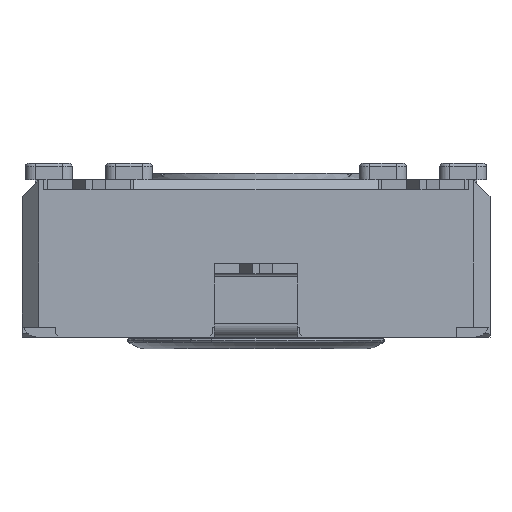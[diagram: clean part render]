
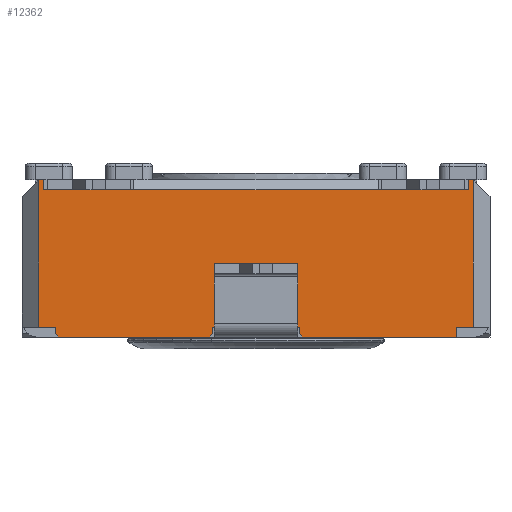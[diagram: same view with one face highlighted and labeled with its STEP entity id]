
A CAD part, front view. The second image highlights one B-rep face of the part: STEP entity #12362.
In plain terms, the highlighted planar face has unit normal (0, -1, 0).
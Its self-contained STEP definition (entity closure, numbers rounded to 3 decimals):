
#642=FACE_OUTER_BOUND('',#1308,.T.);
#1308=EDGE_LOOP('',(#8219,#8220,#8221,#8222,#8223,#8224,#8225,#8226,#8227,
#8228,#8229,#8230,#8231,#8232,#8233,#8234,#8235,#8236,#8237,#8238,#8239,
#8240,#8241,#8242,#8243,#8244,#8245));
#1987=LINE('',#17599,#3453);
#2000=LINE('',#17633,#3466);
#2005=LINE('',#17643,#3471);
#2083=LINE('',#17802,#3549);
#2108=LINE('',#17853,#3574);
#2134=LINE('',#17917,#3600);
#2135=LINE('',#17919,#3601);
#2136=LINE('',#17921,#3602);
#2137=LINE('',#17922,#3603);
#2138=LINE('',#17924,#3604);
#2139=LINE('',#17926,#3605);
#2140=LINE('',#17928,#3606);
#2141=LINE('',#17930,#3607);
#2142=LINE('',#17931,#3608);
#2143=LINE('',#17933,#3609);
#2144=LINE('',#17935,#3610);
#2145=LINE('',#17937,#3611);
#2146=LINE('',#17939,#3612);
#2147=LINE('',#17941,#3613);
#2148=LINE('',#17943,#3614);
#2149=LINE('',#17945,#3615);
#2150=LINE('',#17947,#3616);
#2151=LINE('',#17949,#3617);
#2152=LINE('',#17950,#3618);
#2153=LINE('',#17952,#3619);
#2154=LINE('',#17954,#3620);
#2155=LINE('',#17955,#3621);
#3453=VECTOR('',#14100,10.);
#3466=VECTOR('',#14139,10.);
#3471=VECTOR('',#14144,10.);
#3549=VECTOR('',#14246,10.);
#3574=VECTOR('',#14287,10.);
#3600=VECTOR('',#14335,10.);
#3601=VECTOR('',#14336,10.);
#3602=VECTOR('',#14337,10.);
#3603=VECTOR('',#14338,10.);
#3604=VECTOR('',#14339,10.);
#3605=VECTOR('',#14340,10.);
#3606=VECTOR('',#14341,10.);
#3607=VECTOR('',#14342,10.);
#3608=VECTOR('',#14343,10.);
#3609=VECTOR('',#14344,10.);
#3610=VECTOR('',#14345,10.);
#3611=VECTOR('',#14346,10.);
#3612=VECTOR('',#14347,10.);
#3613=VECTOR('',#14348,10.);
#3614=VECTOR('',#14349,10.);
#3615=VECTOR('',#14350,10.);
#3616=VECTOR('',#14351,10.);
#3617=VECTOR('',#14352,10.);
#3618=VECTOR('',#14353,10.);
#3619=VECTOR('',#14354,10.);
#3620=VECTOR('',#14355,10.);
#3621=VECTOR('',#14356,10.);
#4911=VERTEX_POINT('',#17577);
#4919=VERTEX_POINT('',#17598);
#4927=VERTEX_POINT('',#17632);
#4931=VERTEX_POINT('',#17640);
#4932=VERTEX_POINT('',#17642);
#5000=VERTEX_POINT('',#17799);
#5001=VERTEX_POINT('',#17801);
#5018=VERTEX_POINT('',#17850);
#5019=VERTEX_POINT('',#17852);
#5046=VERTEX_POINT('',#17916);
#5047=VERTEX_POINT('',#17918);
#5048=VERTEX_POINT('',#17920);
#5049=VERTEX_POINT('',#17923);
#5050=VERTEX_POINT('',#17925);
#5051=VERTEX_POINT('',#17927);
#5052=VERTEX_POINT('',#17929);
#5053=VERTEX_POINT('',#17932);
#5054=VERTEX_POINT('',#17934);
#5055=VERTEX_POINT('',#17936);
#5056=VERTEX_POINT('',#17938);
#5057=VERTEX_POINT('',#17940);
#5058=VERTEX_POINT('',#17942);
#5059=VERTEX_POINT('',#17944);
#5060=VERTEX_POINT('',#17946);
#5061=VERTEX_POINT('',#17948);
#5062=VERTEX_POINT('',#17951);
#5063=VERTEX_POINT('',#17953);
#6122=EDGE_CURVE('',#4911,#4919,#1987,.T.);
#6139=EDGE_CURVE('',#4927,#4911,#2000,.T.);
#6144=EDGE_CURVE('',#4932,#4931,#2005,.T.);
#6223=EDGE_CURVE('',#5001,#5000,#2083,.T.);
#6248=EDGE_CURVE('',#5019,#5018,#2108,.T.);
#6280=EDGE_CURVE('',#5000,#5046,#2134,.T.);
#6281=EDGE_CURVE('',#5046,#5047,#2135,.T.);
#6282=EDGE_CURVE('',#5047,#5048,#2136,.T.);
#6283=EDGE_CURVE('',#4932,#5048,#2137,.T.);
#6284=EDGE_CURVE('',#4931,#5049,#2138,.T.);
#6285=EDGE_CURVE('',#5050,#5049,#2139,.T.);
#6286=EDGE_CURVE('',#5050,#5051,#2140,.T.);
#6287=EDGE_CURVE('',#5052,#5051,#2141,.T.);
#6288=EDGE_CURVE('',#4927,#5052,#2142,.T.);
#6289=EDGE_CURVE('',#4919,#5053,#2143,.T.);
#6290=EDGE_CURVE('',#5053,#5054,#2144,.T.);
#6291=EDGE_CURVE('',#5055,#5054,#2145,.T.);
#6292=EDGE_CURVE('',#5055,#5056,#2146,.T.);
#6293=EDGE_CURVE('',#5056,#5057,#2147,.T.);
#6294=EDGE_CURVE('',#5057,#5058,#2148,.T.);
#6295=EDGE_CURVE('',#5059,#5058,#2149,.T.);
#6296=EDGE_CURVE('',#5059,#5060,#2150,.T.);
#6297=EDGE_CURVE('',#5060,#5061,#2151,.T.);
#6298=EDGE_CURVE('',#5061,#5019,#2152,.T.);
#6299=EDGE_CURVE('',#5018,#5062,#2153,.T.);
#6300=EDGE_CURVE('',#5063,#5062,#2154,.T.);
#6301=EDGE_CURVE('',#5063,#5001,#2155,.T.);
#8219=ORIENTED_EDGE('',*,*,#6223,.T.);
#8220=ORIENTED_EDGE('',*,*,#6280,.T.);
#8221=ORIENTED_EDGE('',*,*,#6281,.T.);
#8222=ORIENTED_EDGE('',*,*,#6282,.T.);
#8223=ORIENTED_EDGE('',*,*,#6283,.F.);
#8224=ORIENTED_EDGE('',*,*,#6144,.T.);
#8225=ORIENTED_EDGE('',*,*,#6284,.T.);
#8226=ORIENTED_EDGE('',*,*,#6285,.F.);
#8227=ORIENTED_EDGE('',*,*,#6286,.T.);
#8228=ORIENTED_EDGE('',*,*,#6287,.F.);
#8229=ORIENTED_EDGE('',*,*,#6288,.F.);
#8230=ORIENTED_EDGE('',*,*,#6139,.T.);
#8231=ORIENTED_EDGE('',*,*,#6122,.T.);
#8232=ORIENTED_EDGE('',*,*,#6289,.T.);
#8233=ORIENTED_EDGE('',*,*,#6290,.T.);
#8234=ORIENTED_EDGE('',*,*,#6291,.F.);
#8235=ORIENTED_EDGE('',*,*,#6292,.T.);
#8236=ORIENTED_EDGE('',*,*,#6293,.T.);
#8237=ORIENTED_EDGE('',*,*,#6294,.T.);
#8238=ORIENTED_EDGE('',*,*,#6295,.F.);
#8239=ORIENTED_EDGE('',*,*,#6296,.T.);
#8240=ORIENTED_EDGE('',*,*,#6297,.T.);
#8241=ORIENTED_EDGE('',*,*,#6298,.T.);
#8242=ORIENTED_EDGE('',*,*,#6248,.T.);
#8243=ORIENTED_EDGE('',*,*,#6299,.T.);
#8244=ORIENTED_EDGE('',*,*,#6300,.F.);
#8245=ORIENTED_EDGE('',*,*,#6301,.T.);
#11657=PLANE('',#13067);
#12362=ADVANCED_FACE('',(#642),#11657,.T.);
#13067=AXIS2_PLACEMENT_3D('',#17915,#14333,#14334);
#14100=DIRECTION('',(1.,0.,0.));
#14139=DIRECTION('',(1.,0.,0.));
#14144=DIRECTION('',(1.,0.,0.));
#14246=DIRECTION('',(-1.,0.,0.));
#14287=DIRECTION('',(-1.,0.,0.));
#14333=DIRECTION('center_axis',(0.,-1.,0.));
#14334=DIRECTION('ref_axis',(0.,0.,-1.));
#14335=DIRECTION('',(-1.,0.,0.));
#14336=DIRECTION('',(0.,0.,1.));
#14337=DIRECTION('',(-1.,0.,0.));
#14338=DIRECTION('',(0.,0.,1.));
#14339=DIRECTION('',(0.,0.,-1.));
#14340=DIRECTION('',(-0.707,0.,0.707));
#14341=DIRECTION('',(1.,0.,0.));
#14342=DIRECTION('',(-0.707,0.,-0.707));
#14343=DIRECTION('',(0.,0.,-1.));
#14344=DIRECTION('',(1.,0.,0.));
#14345=DIRECTION('',(0.,0.,-1.));
#14346=DIRECTION('',(-0.707,0.,0.707));
#14347=DIRECTION('',(1.,0.,0.));
#14348=DIRECTION('',(0.,0.,1.));
#14349=DIRECTION('',(1.,0.,0.));
#14350=DIRECTION('',(0.,0.,-1.));
#14351=DIRECTION('',(-1.,0.,0.));
#14352=DIRECTION('',(0.,0.,-1.));
#14353=DIRECTION('',(-1.,0.,0.));
#14354=DIRECTION('',(-1.,0.,0.));
#14355=DIRECTION('',(1.,0.,0.));
#14356=DIRECTION('',(-1.,0.,0.));
#17577=CARTESIAN_POINT('',(-8.717,-9.898,0.));
#17598=CARTESIAN_POINT('',(-6.217,-9.898,0.));
#17599=CARTESIAN_POINT('',(-14.467,-9.898,0.));
#17632=CARTESIAN_POINT('',(-8.767,-9.898,0.));
#17633=CARTESIAN_POINT('',(-14.467,-9.898,0.));
#17640=CARTESIAN_POINT('',(-13.467,-9.898,0.));
#17642=CARTESIAN_POINT('',(-13.967,-9.898,0.));
#17643=CARTESIAN_POINT('',(-7.245,-9.898,0.));
#17799=CARTESIAN_POINT('',(-13.717,-9.898,4.1));
#17801=CARTESIAN_POINT('',(-11.217,-9.898,4.1));
#17802=CARTESIAN_POINT('',(-6.467,-9.898,4.1));
#17850=CARTESIAN_POINT('',(-3.717,-9.898,4.1));
#17852=CARTESIAN_POINT('',(-1.217,-9.898,4.1));
#17853=CARTESIAN_POINT('',(-1.467,-9.898,4.1));
#17915=CARTESIAN_POINT('Origin',(-0.467,-9.898,0.));
#17916=CARTESIAN_POINT('',(-13.817,-9.898,4.1));
#17917=CARTESIAN_POINT('',(-3.944,-9.898,4.1));
#17918=CARTESIAN_POINT('',(-13.817,-9.898,4.4));
#17919=CARTESIAN_POINT('',(-13.817,-9.898,2.2));
#17920=CARTESIAN_POINT('',(-13.967,-9.898,4.4));
#17921=CARTESIAN_POINT('',(-14.467,-9.898,4.4));
#17922=CARTESIAN_POINT('',(-13.967,-9.898,0.));
#17923=CARTESIAN_POINT('',(-13.467,-9.898,-0.2));
#17924=CARTESIAN_POINT('',(-13.467,-9.898,-0.15));
#17925=CARTESIAN_POINT('',(-13.367,-9.898,-0.3));
#17926=CARTESIAN_POINT('',(-10.242,-9.898,-3.425));
#17927=CARTESIAN_POINT('',(-8.867,-9.898,-0.3));
#17928=CARTESIAN_POINT('',(-0.467,-9.898,-0.3));
#17929=CARTESIAN_POINT('',(-8.767,-9.898,-0.2));
#17930=CARTESIAN_POINT('',(-6.667,-9.898,1.9));
#17931=CARTESIAN_POINT('',(-8.767,-9.898,0.));
#17932=CARTESIAN_POINT('',(-6.167,-9.898,0.));
#17933=CARTESIAN_POINT('',(-14.467,-9.898,0.));
#17934=CARTESIAN_POINT('',(-6.167,-9.898,-0.2));
#17935=CARTESIAN_POINT('',(-6.167,-9.898,0.));
#17936=CARTESIAN_POINT('',(-6.067,-9.898,-0.3));
#17937=CARTESIAN_POINT('',(-4.767,-9.898,-1.6));
#17938=CARTESIAN_POINT('',(-1.467,-9.898,-0.3));
#17939=CARTESIAN_POINT('',(-0.467,-9.898,-0.3));
#17940=CARTESIAN_POINT('',(-1.467,-9.898,0.));
#17941=CARTESIAN_POINT('',(-1.467,-9.898,-0.15));
#17942=CARTESIAN_POINT('',(-0.967,-9.898,0.));
#17943=CARTESIAN_POINT('',(-0.646,-9.898,0.));
#17944=CARTESIAN_POINT('',(-0.967,-9.898,4.4));
#17945=CARTESIAN_POINT('',(-0.967,-9.898,0.));
#17946=CARTESIAN_POINT('',(-1.117,-9.898,4.4));
#17947=CARTESIAN_POINT('',(-14.467,-9.898,4.4));
#17948=CARTESIAN_POINT('',(-1.117,-9.898,4.1));
#17949=CARTESIAN_POINT('',(-1.117,-9.898,2.2));
#17950=CARTESIAN_POINT('',(-1.862,-9.898,4.1));
#17951=CARTESIAN_POINT('',(-3.817,-9.898,4.1));
#17952=CARTESIAN_POINT('',(-1.862,-9.898,4.1));
#17953=CARTESIAN_POINT('',(-11.117,-9.898,4.1));
#17954=CARTESIAN_POINT('',(-3.967,-9.898,4.1));
#17955=CARTESIAN_POINT('',(-3.944,-9.898,4.1));
